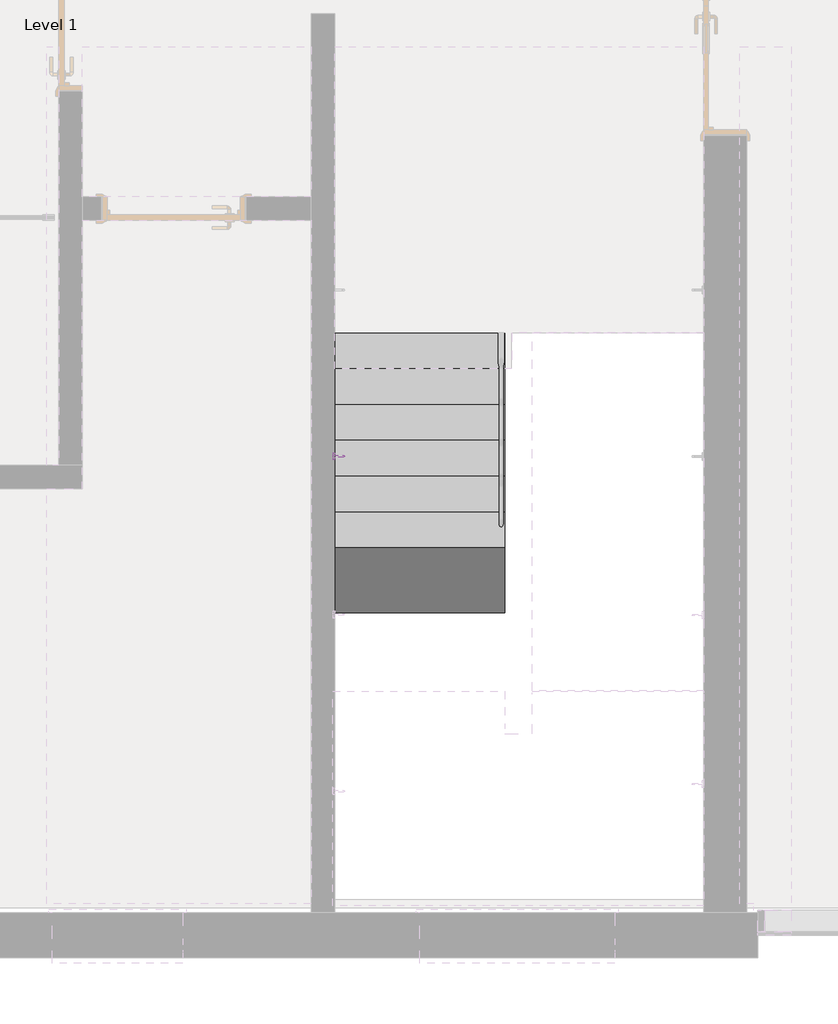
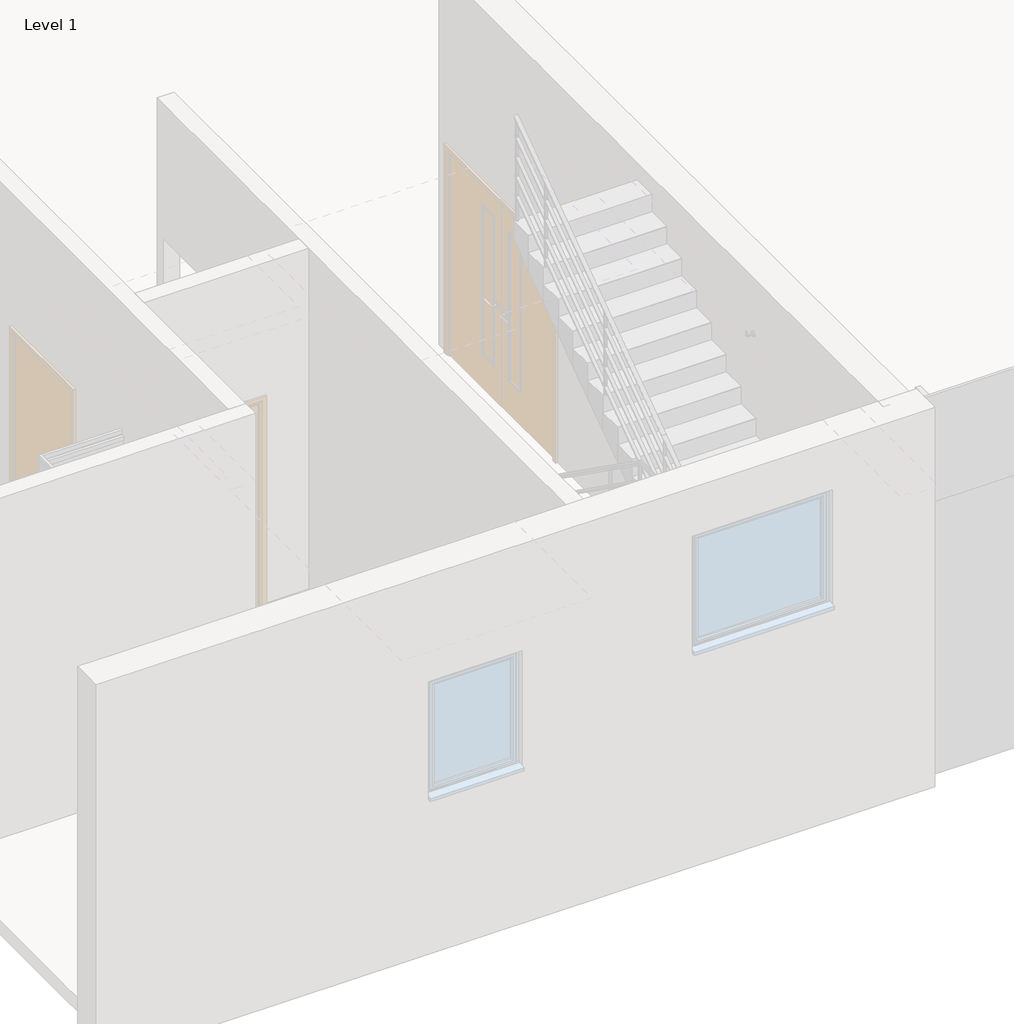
# One storey, part 8 of 12: 1 proxy, 1 stair flight.
"""IFC4 building model written with IfcOpenShell, lengths in millimetres."""

from ifc_helpers import new_model, si_unit, frame, origin, place, context, project, spatial, polyline, outline, extrude, faceted_brep, transform, mapped, element, save
from components import support_metal_circular_support_metal_circular_016e83f0

model = new_model("IFC4")

# Units and contexts
model_context = context("Model", 3, world=origin())
ifc_project = project(units=[si_unit("LENGTHUNIT", "METRE", prefix="MILLI")], contexts=[model_context])

# Site, building, storey
site = spatial("IfcSite", under=ifc_project)
building = spatial("IfcBuilding", under=site)
storey = spatial("IfcBuildingStorey", under=building, Name="Level 1", Elevation=3900.0)

# Proxy
placement = place(None, origin())
support_metal_circular_support_metal_circular_shape = support_metal_circular_support_metal_circular_016e83f0(model_context)
element("IfcBuildingElementProxy", 1, Name="Support - Metal - Circular : Support - Metal - Circular", ObjectType="Support - Metal - Circular : Support - Metal - Circular", at=placement, inside=storey, context=model_context, shape_type="MappedRepresentation", body=[
    mapped(support_metal_circular_support_metal_circular_shape, transform((5322.6000025, 3439.4755703, 5569.5820057), x_axis=(0.0, 1.0, 0.0), y_axis=(-1.0, 0.0, 0.0), z_axis=(0.0, 0.0, 1.0))),
])

# Stair flight
element("IfcStairFlight", 2, ObjectType="1mm_Tread-150mm_Depth", at=placement, inside=storey, context=model_context, shape_type="SolidModel", body=[
    faceted_brep([(6447.2000025, 4050.0, 4076.2727273), (6447.2000025, 4300.0, 4076.2727273), (5247.2000025, 4300.0, 4076.2727273), (5247.2000025, 4050.0, 4076.2727273), (6447.2000025, 4050.0, 3900.0), (6447.2000025, 4300.0, 3900.0), (5247.2000025, 4300.0, 3900.0), (5247.2000025, 4050.0, 3900.0), (6447.2000025, 3800.0, 4253.5454545), (6447.2000025, 4050.0, 4253.5454545), (5247.2000025, 4050.0, 4253.5454545), (5247.2000025, 3800.0, 4253.5454545), (6447.2000025, 3800.0, 4069.6617328), (6447.2000025, 4039.2665462, 3900.0), (5247.2000025, 4039.2665462, 3900.0), (5247.2000025, 3800.0, 4069.6617328), (6447.2000025, 3550.0, 4430.8181818), (6447.2000025, 3800.0, 4430.8181818), (5247.2000025, 3800.0, 4430.8181818), (5247.2000025, 3550.0, 4430.8181818), (6447.2000025, 3550.0, 4246.93446), (5247.2000025, 3550.0, 4246.93446), (6447.2000025, 3300.0, 4608.0909091), (6447.2000025, 3550.0, 4608.0909091), (5247.2000025, 3550.0, 4608.0909091), (5247.2000025, 3300.0, 4608.0909091), (6447.2000025, 3300.0, 4424.2071873), (5247.2000025, 3300.0, 4424.2071873), (6447.2000025, 3050.0, 4785.3636364), (6447.2000025, 3300.0, 4785.3636364), (5247.2000025, 3300.0, 4785.3636364), (5247.2000025, 3050.0, 4785.3636364), (6447.2000025, 3050.0, 4601.4799146), (5247.2000025, 3050.0, 4601.4799146), (6447.2000025, 2800.0, 4962.6363636), (6447.2000025, 3050.0, 4962.6363636), (5247.2000025, 3050.0, 4962.6363636), (5247.2000025, 2800.0, 4962.6363636), (6447.2000025, 2800.0, 4778.7526418), (5247.2000025, 2800.0, 4778.7526418), (6447.2000025, 2550.0, 5139.9090909), (6447.2000025, 2800.0, 5139.9090909), (5247.2000025, 2800.0, 5139.9090909), (5247.2000025, 2550.0, 5139.9090909), (6447.2000025, 2550.0, 4956.0253691), (5247.2000025, 2550.0, 4956.0253691), (6447.2000025, 2300.0, 5317.1818182), (6447.2000025, 2550.0, 5317.1818182), (5247.2000025, 2550.0, 5317.1818182), (5247.2000025, 2300.0, 5317.1818182), (6447.2000025, 2300.0, 5133.2980964), (5247.2000025, 2300.0, 5133.2980964), (6447.2000025, 2050.0, 5494.4545455), (6447.2000025, 2300.0, 5494.4545455), (5247.2000025, 2300.0, 5494.4545455), (5247.2000025, 2050.0, 5494.4545455), (6447.2000025, 2050.0, 5310.5708237), (5247.2000025, 2050.0, 5310.5708237), (6447.2000025, 1800.0, 5487.8435509), (5247.2000025, 1800.0, 5487.8435509), (6447.2000025, 1800.0, 5671.7272727), (6447.2000025, 2050.0, 5671.7272727), (5247.2000025, 2050.0, 5671.7272727), (5247.2000025, 1800.0, 5671.7272727)], [[[0, 1, 2, 3]], [[1, 0, 4, 5]], [[2, 1, 5, 6]], [[3, 2, 6, 7]], [[8, 9, 10, 11]], [[4, 0, 9, 8, 12, 13]], [[0, 3, 10, 9]], [[3, 7, 14, 15, 11, 10]], [[16, 17, 18, 19]], [[17, 16, 20, 12, 8]], [[8, 11, 18, 17]], [[19, 18, 11, 15, 21]], [[22, 23, 24, 25]], [[23, 22, 26, 20, 16]], [[16, 19, 24, 23]], [[25, 24, 19, 21, 27]], [[28, 29, 30, 31]], [[29, 28, 32, 26, 22]], [[22, 25, 30, 29]], [[31, 30, 25, 27, 33]], [[34, 35, 36, 37]], [[35, 34, 38, 32, 28]], [[28, 31, 36, 35]], [[37, 36, 31, 33, 39]], [[40, 41, 42, 43]], [[41, 40, 44, 38, 34]], [[34, 37, 42, 41]], [[43, 42, 37, 39, 45]], [[46, 47, 48, 49]], [[47, 46, 50, 44, 40]], [[40, 43, 48, 47]], [[49, 48, 43, 45, 51]], [[52, 53, 54, 55]], [[53, 52, 56, 50, 46]], [[46, 49, 54, 53]], [[55, 54, 49, 51, 57]], [[5, 4, 13, 14, 7, 6]], [[14, 13, 12, 20, 26, 32, 38, 44, 50, 56, 58, 59, 57, 51, 45, 39, 33, 27, 21, 15]], [[60, 61, 62, 63]], [[61, 60, 58, 56, 52]], [[52, 55, 62, 61]], [[63, 62, 55, 57, 59]], [[60, 63, 59, 58]]]),
    extrude(outline(polyline([(6447.2000025, 4050.0), (5247.2000025, 4050.0), (5247.2000025, 4300.0), (6447.2000025, 4300.0), (6447.2000025, 4050.0)])), frame((0.0, 0.0, 4076.2727273), z_axis=(0.0, 0.0, 1.0), x_axis=(1.0, 0.0, 0.0)), (0.0, 0.0, 1.0), 1.0),
    extrude(outline(polyline([(6447.2000025, 3800.0), (5247.2000025, 3800.0), (5247.2000025, 4050.0), (6447.2000025, 4050.0), (6447.2000025, 3800.0)])), frame((0.0, 0.0, 4253.5454545), z_axis=(0.0, 0.0, 1.0), x_axis=(1.0, 0.0, 0.0)), (0.0, 0.0, 1.0), 1.0),
    extrude(outline(polyline([(6447.2000025, 3550.0), (5247.2000025, 3550.0), (5247.2000025, 3800.0), (6447.2000025, 3800.0), (6447.2000025, 3550.0)])), frame((0.0, 0.0, 4430.8181818), z_axis=(0.0, 0.0, 1.0), x_axis=(1.0, 0.0, 0.0)), (0.0, 0.0, 1.0), 1.0),
    extrude(outline(polyline([(6447.2000025, 3300.0), (5247.2000025, 3300.0), (5247.2000025, 3550.0), (6447.2000025, 3550.0), (6447.2000025, 3300.0)])), frame((0.0, 0.0, 4608.0909091), z_axis=(0.0, 0.0, 1.0), x_axis=(1.0, 0.0, 0.0)), (0.0, 0.0, 1.0), 1.0),
    extrude(outline(polyline([(6447.2000025, 3050.0), (5247.2000025, 3050.0), (5247.2000025, 3300.0), (6447.2000025, 3300.0), (6447.2000025, 3050.0)])), frame((0.0, 0.0, 4785.3636364), z_axis=(0.0, 0.0, 1.0), x_axis=(1.0, 0.0, 0.0)), (0.0, 0.0, 1.0), 1.0),
    extrude(outline(polyline([(6447.2000025, 2800.0), (5247.2000025, 2800.0), (5247.2000025, 3050.0), (6447.2000025, 3050.0), (6447.2000025, 2800.0)])), frame((0.0, 0.0, 4962.6363636), z_axis=(0.0, 0.0, 1.0), x_axis=(1.0, 0.0, 0.0)), (0.0, 0.0, 1.0), 1.0),
    extrude(outline(polyline([(6447.2000025, 2550.0), (5247.2000025, 2550.0), (5247.2000025, 2800.0), (6447.2000025, 2800.0), (6447.2000025, 2550.0)])), frame((0.0, 0.0, 5139.9090909), z_axis=(0.0, 0.0, 1.0), x_axis=(1.0, 0.0, 0.0)), (0.0, 0.0, 1.0), 1.0),
    extrude(outline(polyline([(6447.2000025, 2300.0), (5247.2000025, 2300.0), (5247.2000025, 2550.0), (6447.2000025, 2550.0), (6447.2000025, 2300.0)])), frame((0.0, 0.0, 5317.1818182), z_axis=(0.0, 0.0, 1.0), x_axis=(1.0, 0.0, 0.0)), (0.0, 0.0, 1.0), 1.0),
    extrude(outline(polyline([(6447.2000025, 2050.0), (5247.2000025, 2050.0), (5247.2000025, 2300.0), (6447.2000025, 2300.0), (6447.2000025, 2050.0)])), frame((0.0, 0.0, 5494.4545455), z_axis=(0.0, 0.0, 1.0), x_axis=(1.0, 0.0, 0.0)), (0.0, 0.0, 1.0), 1.0),
    extrude(outline(polyline([(6447.2000025, 1800.0), (5247.2000025, 1800.0), (5247.2000025, 2050.0), (6447.2000025, 2050.0), (6447.2000025, 1800.0)])), frame((0.0, 0.0, 5671.7272727), z_axis=(0.0, 0.0, 1.0), x_axis=(1.0, 0.0, 0.0)), (0.0, 0.0, 1.0), 1.0),
])

save(model, "model.ifc")
